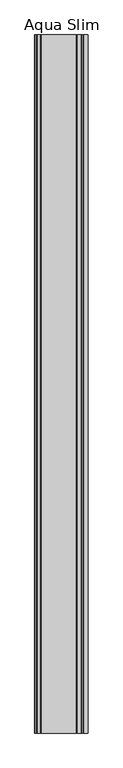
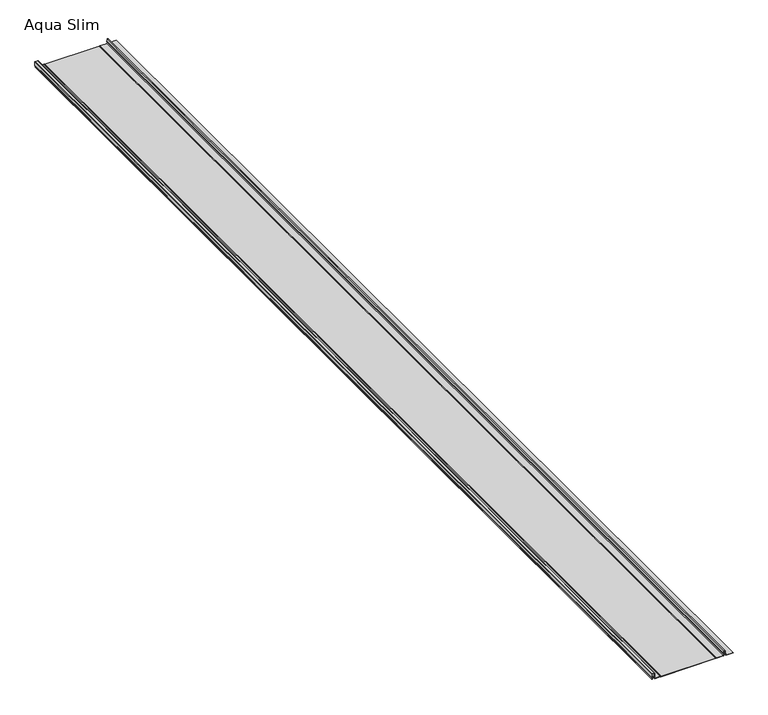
"""IFC4 building model written with IfcOpenShell, lengths in millimetres: proxy geometry, AQUAPLAST - Panel Dachowy i Elewacyjny Aqua Slim : Aqua Slim."""

from ifc_helpers import new_model, si_unit, point, frame, frame_2d, origin, origin_with_axes, place, context, project, spatial, polyline, circle_curve, trimmed, segment, composite_curve, outline, extrude, source, transform, mapped, element, save


def aqua_slim_97a0cb55(model_context):
    return source(origin(), model_context, "Body", "SweptSolid", [
        extrude(outline(composite_curve([segment(polyline([(0.8, 168.4), (0.8, 138.958412)]), True, "CONTINUOUS"), segment(trimmed(circle_curve(frame_2d((1.4640676, 138.958412)), 0.6640676), [point((0.8, 138.958412))], [point((1.3501315, 138.3041916))], True, "CARTESIAN"), True, "CONTINUOUS"), segment(polyline([(1.3501315, 138.3041916), (18.7653554, 135.2712349)]), True, "CONTINUOUS"), segment(trimmed(circle_curve(frame_2d((18.1818617, 132.6281389)), 2.7067363), [point((18.7653554, 135.2712349))], [point((19.5352298, 130.2840366))], False, "CARTESIAN"), True, "CONTINUOUS"), segment(polyline([(19.5352298, 130.2840366), (12.1941629, 127.3237764)]), True, "CONTINUOUS"), segment(trimmed(circle_curve(frame_2d((11.2676679, 129.6213657)), 2.4773594), [point((12.1941629, 127.3237764))], [point((9.0024093, 128.6184133))], False, "CARTESIAN"), True, "CONTINUOUS"), segment(trimmed(circle_curve(frame_2d((5.4667311, 127.0529775)), 3.8667311), [point((9.0024093, 128.6184133))], [point((1.6, 127.0529775))], True, "CARTESIAN"), True, "CONTINUOUS"), segment(polyline([(1.6, 127.0529775), (1.6, 99.2000503), (0.8, 95.7000503), (0.0, 95.7000503), (0.8, 99.2000503), (0.8, 126.8938021)]), True, "CONTINUOUS"), segment(trimmed(circle_curve(frame_2d((5.5014361, 126.8938021)), 4.7014361), [point((0.8, 126.8938021))], [point((9.7513874, 128.9041293))], False, "CARTESIAN"), True, "CONTINUOUS"), segment(trimmed(circle_curve(frame_2d((11.2676679, 129.6213657)), 1.6773594), [point((9.7513874, 128.9041293))], [point((11.8934079, 128.0650932))], True, "CARTESIAN"), True, "CONTINUOUS"), segment(polyline([(11.8934079, 128.0650932), (19.1352298, 130.9768569)]), True, "CONTINUOUS"), segment(trimmed(circle_curve(frame_2d((18.1818617, 132.6281389)), 1.9067363), [point((19.1352298, 130.9768569))], [point((18.4803326, 134.5113697))], True, "CARTESIAN"), True, "CONTINUOUS"), segment(polyline([(18.4803326, 134.5113697), (0.6241817, 137.3413691)]), True, "CONTINUOUS"), segment(trimmed(circle_curve(frame_2d((0.7400208, 138.0722673)), 0.7400208), [point((0.6241817, 137.3413691))], [point((0.0, 138.0722673))], False, "CARTESIAN"), True, "CONTINUOUS"), segment(polyline([(0.0, 138.0722673), (0.0, 168.4), (0.8, 168.4)]), True, "CONTINUOUS")], self_intersect=False)), frame((0.0, 0.0, 0.0), z_axis=(0.0, 1.0, 0.0), x_axis=(0.0, 0.0, 1.0)), (0.0, 0.0, 1.0), 4454.0),
        extrude(outline(composite_curve([segment(polyline([(1.6, -135.0), (1.6, -158.1)]), True, "CONTINUOUS"), segment(trimmed(circle_curve(frame_2d((2.1, -158.1)), 0.5), [point((1.6, -158.1))], [point((2.1, -158.6))], True, "CARTESIAN"), True, "CONTINUOUS"), segment(polyline([(2.1, -158.6), (24.5, -158.6)]), True, "CONTINUOUS"), segment(trimmed(circle_curve(frame_2d((24.5, -159.1)), 0.5), [point((24.5, -158.6))], [point((25.0, -159.1))], False, "CARTESIAN"), True, "CONTINUOUS"), segment(polyline([(25.0, -159.1), (25.0, -171.1)]), True, "CONTINUOUS"), segment(trimmed(circle_curve(frame_2d((24.5, -171.1)), 0.5), [point((25.0, -171.1))], [point((24.5, -171.6))], False, "CARTESIAN"), True, "CONTINUOUS"), segment(polyline([(24.5, -171.6), (8.8039223, -171.6)]), True, "CONTINUOUS"), segment(trimmed(circle_curve(frame_2d((8.8039223, -170.9250457)), 0.6749543), [point((8.8039223, -171.6))], [point((8.1289934, -170.9191923))], False, "CARTESIAN"), True, "CONTINUOUS"), segment(trimmed(circle_curve(frame_2d((5.3847863, -170.9191923)), 2.7442071), [point((8.1289934, -170.9191923))], [point((2.6405793, -170.9191923))], True, "CARTESIAN"), True, "CONTINUOUS"), segment(polyline([(2.6405793, -170.9191923), (1.8403383, -170.9191923)]), True, "CONTINUOUS"), segment(trimmed(circle_curve(frame_2d((5.4137846, -170.9191923)), 3.5734462), [point((1.8403383, -170.9191923))], [point((8.9478642, -170.3902321))], False, "CARTESIAN"), True, "CONTINUOUS"), segment(trimmed(circle_curve(frame_2d((9.7850119, -169.9539484)), 0.9440125), [point((8.9478642, -170.3902321))], [point((9.7850119, -170.897961))], True, "CARTESIAN"), True, "CONTINUOUS"), segment(polyline([(9.7850119, -170.897961), (23.6993591, -170.897961)]), True, "CONTINUOUS"), segment(trimmed(circle_curve(frame_2d((23.6993591, -170.3966773)), 0.5012837), [point((23.6993591, -170.897961))], [point((24.2006428, -170.3966773))], True, "CARTESIAN"), True, "CONTINUOUS"), segment(polyline([(24.2006428, -170.3966773), (24.2006428, -159.9001579)]), True, "CONTINUOUS"), segment(trimmed(circle_curve(frame_2d((23.7003195, -159.9001579)), 0.5003233), [point((24.2006428, -159.9001579))], [point((23.7003195, -159.3998346))], True, "CARTESIAN"), True, "CONTINUOUS"), segment(polyline([(23.7003195, -159.3998346), (1.2999699, -159.3998346)]), True, "CONTINUOUS"), segment(trimmed(circle_curve(frame_2d((1.2999699, -158.8999248)), 0.4999098), [point((1.2999699, -159.3998346))], [point((0.8000601, -158.8999248))], False, "CARTESIAN"), True, "CONTINUOUS"), segment(polyline([(0.8000601, -158.8999248), (0.8000601, -135.0), (0.0, -131.5), (0.8, -131.5), (1.6, -135.0)]), True, "CONTINUOUS")], self_intersect=False)), frame((0.0, 0.0, 0.0), z_axis=(0.0, 1.0, 0.0), x_axis=(0.0, 0.0, 1.0)), (0.0, 0.0, 1.0), 4454.0),
        extrude(outline(polyline([(-131.5, 4454.0), (95.7000503, 4454.0), (95.7000503, 0.0), (-131.5, 0.0), (-131.5, 4454.0)])), origin_with_axes(), (0.0, 0.0, 1.0), 0.8),
    ])


if __name__ == "__main__":
    model = new_model("IFC4")
    model_context = context("Model", 3, world=origin())
    ifc_project = project(units=[si_unit("LENGTHUNIT", "METRE", prefix="MILLI")], contexts=[model_context])
    site = spatial("IfcSite", under=ifc_project)
    building = spatial("IfcBuilding", under=site)
    placement = place(None, origin())
    aqua_slim_shape = aqua_slim_97a0cb55(model_context)
    element("IfcBuildingElementProxy", 1, Name="AQUAPLAST - Panel Dachowy i Elewacyjny Aqua Slim : Aqua Slim", ObjectType="AQUAPLAST - Panel Dachowy i Elewacyjny Aqua Slim : Aqua Slim", at=placement, inside=building, context=model_context, shape_type="MappedRepresentation", body=[
        mapped(aqua_slim_shape, transform((0.0, 0.0, 0.0), x_axis=(1.0, 0.0, 0.0), y_axis=(0.0, 1.0, 0.0), z_axis=(0.0, 0.0, 1.0))),
    ])
    save(model, "model.ifc")
